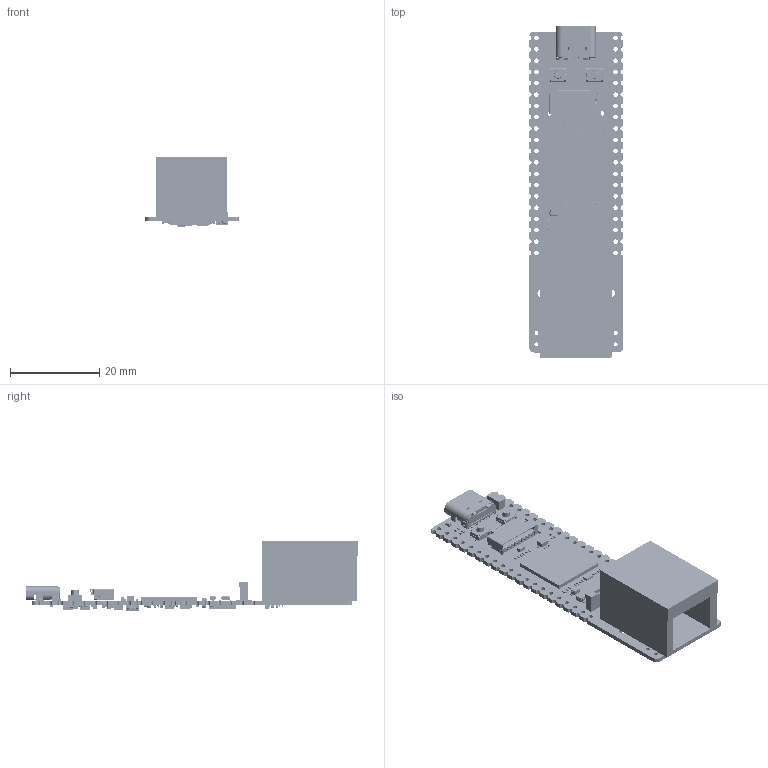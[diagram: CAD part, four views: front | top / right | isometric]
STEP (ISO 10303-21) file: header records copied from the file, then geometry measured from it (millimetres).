
FILE_DESCRIPTION(('Open CASCADE Model'),'2;1');
FILE_NAME('Open CASCADE Shape Model','2023-11-03T09:30:52',('Author'),( 'Open CASCADE'),'Open CASCADE STEP processor 6.5','Open CASCADE 6.5' ,'Unknown');
FILE_SCHEMA(('AUTOMOTIVE_DESIGN { 1 0 10303 214 1 1 1 1 }'));
Length unit declared in the file: millimetre
Products named in the file (252): PCB; Board; D3; SOD323; C1; C_0402; C_0402-4045_AF0_ASM; C_0402-672_AF0_ASM; _1_10001; 3_1_A; 2_100; R57; User_Library-RES_0603-0201; C73; User_Library-0201(0603M)_Cap; ED2; L0402; ED1; R22; Key1; ts-1185ec-a-e-a-1; Type_C1; 698b116-264-211; SOLID; R6; R5; R3; R2; D1; 862411968; Extruded; C5; C6; C4; U1; 792199552; Y2; 792201728; Y1; 862415680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
Assembly tree (408 placements, depth 6):
  PCB
    Board
    D3
      SOD323
    C1
      C_0402
        C_0402-4045_AF0_ASM
          C_0402-672_AF0_ASM
            _1_10001
            3_1_A
            2_100
    R57
      User_Library-RES_0603-0201
    C73
      User_Library-0201(0603M)_Cap
    ED2
      L0402
    ED1
      L0402
    R22
      User_Library-RES_0603-0201
    Key1
      ts-1185ec-a-e-a-1
    Type_C1
      698b116-264-211
        SOLID
        SOLID
        SOLID
        SOLID
        SOLID
        SOLID
        SOLID
        SOLID
        SOLID
        SOLID
        SOLID
        SOLID
        SOLID
        SOLID
        SOLID
        SOLID
        SOLID
        SOLID
        SOLID
        SOLID
        SOLID
        SOLID
    R6
      User_Library-RES_0603-0201
    R5
      User_Library-RES_0603-0201
    R3
      User_Library-RES_0603-0201
    R2
      User_Library-RES_0603-0201
    D1
      862411968
        Extruded
    C5
      User_Library-0201(0603M)_Cap
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Bounding box: 21.02 x 74.57 x 15.7 mm (x, y, z)
Volume: 5538.9 mm3; surface area: 9455.8 mm2
Topology: 531 solids, 544 shells, 28932 faces, 76123 edges, 49681 vertices
Faces by surface type: plane 19446, bspline 3530, extrusion 3164, cylinder 2480, sphere 264, cone 40, torus 8
Full cylindrical faces by diameter (mm): 0.3 x9, 0.762 x2, 0.889 x2, 0.9 x2, 1 x48, 1.7 x2, 3.3 x2
Entity records: 486312 total; most frequent: CARTESIAN_POINT 163221, DIRECTION 51675, VECTOR 36313, LINE 36075, ORIENTED_EDGE 32266, PCURVE 32266, DEFINITIONAL_REPRESENTATION 32266, EDGE_CURVE 16134
